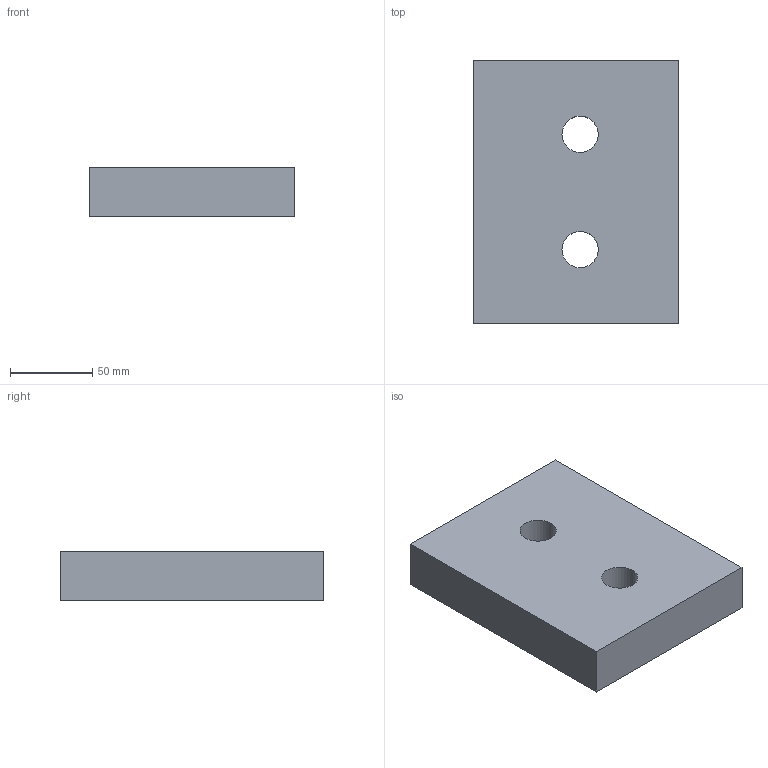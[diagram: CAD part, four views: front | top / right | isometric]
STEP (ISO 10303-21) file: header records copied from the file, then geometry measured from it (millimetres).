
FILE_DESCRIPTION (( 'STEP AP214' ), '1' );
FILE_NAME ('SW225-09-125x160.STEP', '2020-10-27T08:54:36', ( 'August' ), ( '' ), 'SwSTEP 2.0', 'SolidWorks 2018', '' );
FILE_SCHEMA (( 'AUTOMOTIVE_DESIGN' ));
Length unit declared in the file: millimetre
Products named in the file (1): SW225-09-125x160
Bounding box: 125 x 160 x 30 mm (x, y, z)
Volume: 577192 mm3; surface area: 59726.4 mm2
Topology: 1 solids, 1 shells, 10 faces, 24 edges, 16 vertices
Faces by surface type: plane 6, cylinder 4
Entity records: 338 total; most frequent: DIRECTION 54, CARTESIAN_POINT 51, ORIENTED_EDGE 48, EDGE_CURVE 24, AXIS2_PLACEMENT_3D 19, LINE 16, VECTOR 16, VERTEX_POINT 16
